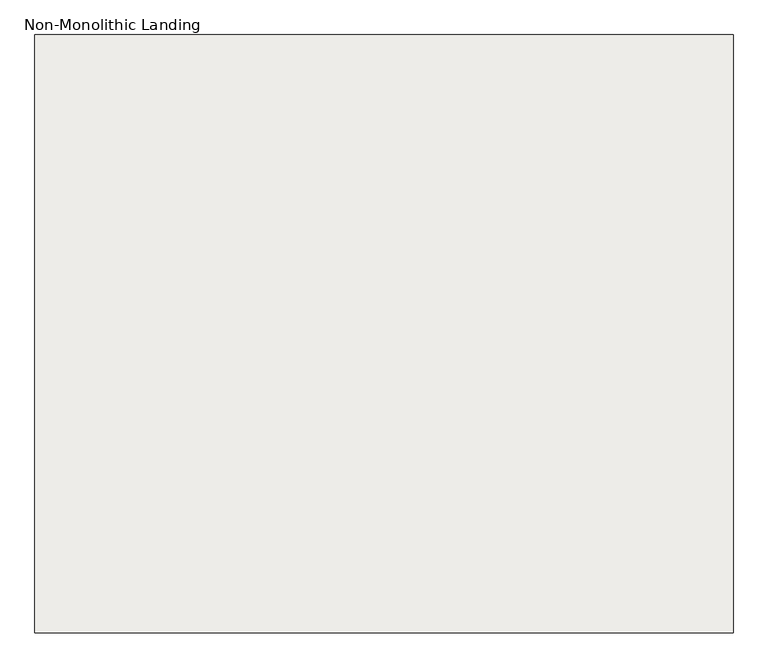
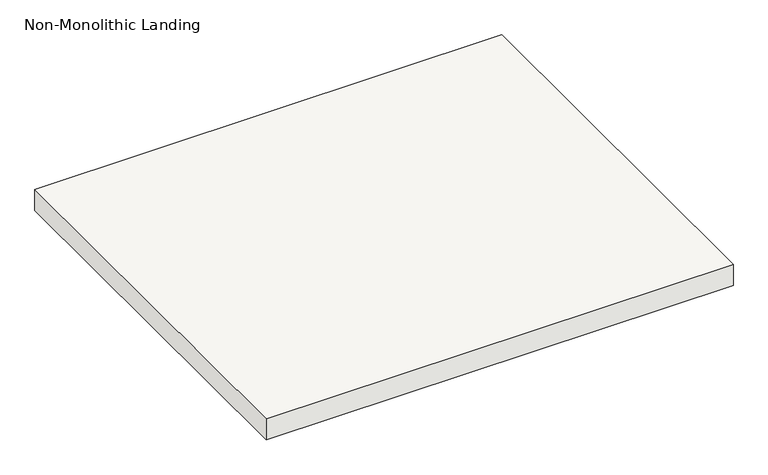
"""IFC4 building model written with IfcOpenShell, lengths in millimetres: slab geometry, Non-Monolithic Landing."""

from ifc_helpers import new_model, si_unit, frame, origin, place, context, project, spatial, polyline, outline, extrude, source, transform, mapped, element, save


def non_monolithic_landing_62def4c6(model_context):
    return source(origin(), model_context, "Body", "SweptSolid", [
        extrude(outline(polyline([(88348.7647213, -34610.1173894), (89415.5647213, -34610.1173894), (89415.5647213, -35524.5173894), (88348.7647213, -35524.5173894), (88348.7647213, -34610.1173894)])), frame((0.0, 0.0, 2195.0947368), z_axis=(0.0, 0.0, 1.0), x_axis=(1.0, 0.0, 0.0)), (0.0, 0.0, 1.0), 50.8),
    ])


if __name__ == "__main__":
    model = new_model("IFC4")
    model_context = context("Model", 3, world=origin())
    ifc_project = project(units=[si_unit("LENGTHUNIT", "METRE", prefix="MILLI")], contexts=[model_context])
    site = spatial("IfcSite", under=ifc_project)
    building = spatial("IfcBuilding", under=site)
    placement = place(None, origin())
    non_monolithic_landing_shape = non_monolithic_landing_62def4c6(model_context)
    element("IfcSlab", 1, ObjectType="Non-Monolithic Landing", at=placement, inside=building, context=model_context, shape_type="MappedRepresentation", body=[
        mapped(non_monolithic_landing_shape, transform((0.0, 0.0, 0.0), x_axis=(1.0, 0.0, 0.0), y_axis=(0.0, 1.0, 0.0), z_axis=(0.0, 0.0, 1.0))),
    ])
    save(model, "model.ifc")
